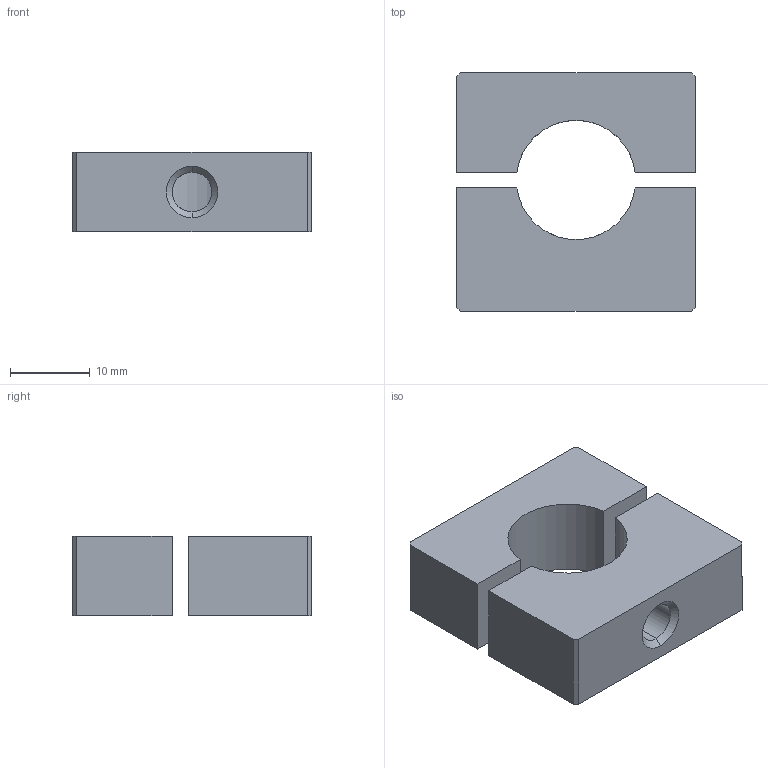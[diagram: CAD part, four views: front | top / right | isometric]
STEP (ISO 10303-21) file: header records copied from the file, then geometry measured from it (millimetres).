
FILE_DESCRIPTION (( 'STEP AP203' ), '1' );
FILE_NAME ('B2-LD.STEP', '2011-12-20T10:16:18', ( '' ), ( '' ), 'SwSTEP 2.0', 'SolidWorks 2010', '' );
FILE_SCHEMA (( 'CONFIG_CONTROL_DESIGN' ));
Length unit declared in the file: millimetre
Products named in the file (1): B2-LD
Bounding box: 30 x 30 x 10 mm (x, y, z)
Volume: 6743.3 mm3; surface area: 3366.5 mm2
Topology: 2 solids, 2 shells, 24 faces, 58 edges, 38 vertices
Faces by surface type: plane 18, cylinder 4, cone 2
Entity records: 829 total; most frequent: CARTESIAN_POINT 181, ORIENTED_EDGE 116, DIRECTION 114, EDGE_CURVE 58, LINE 48, VECTOR 48, VERTEX_POINT 38, AXIS2_PLACEMENT_3D 33
